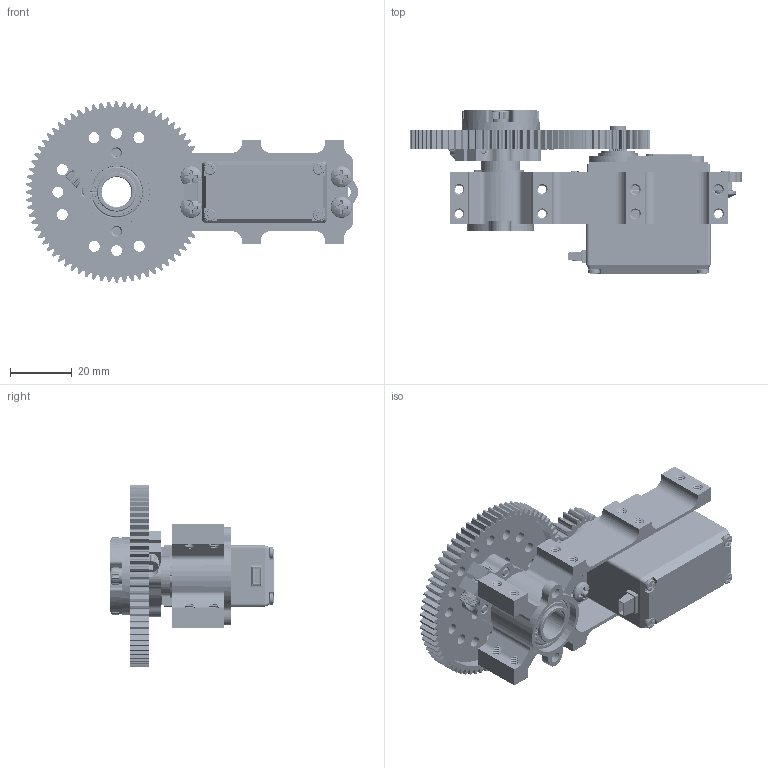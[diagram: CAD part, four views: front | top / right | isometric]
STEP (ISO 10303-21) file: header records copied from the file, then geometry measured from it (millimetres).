
FILE_DESCRIPTION (( 'STEP AP203' ), '1' );
FILE_NAME ('SG12-30-CR.STEP', '2020-06-26T15:15:50', ( '' ), ( '' ), 'SwSTEP 2.0', 'SolidWorks 2016', '' );
FILE_SCHEMA (( 'CONFIG_CONTROL_DESIGN' ));
Length unit declared in the file: millimetre
Products named in the file (9): 545440; 632114_90128A121; 615198_Gear Blank; 545600 assembly; SG12-CR Part; 615306_Gear Blank; SG12-30-CR; 545600; 632110_90128A121
Assembly tree (11 placements, depth 3):
  SG12-30-CR
    SG12-CR Part
    545440
    615306_Gear Blank
    615198_Gear Blank
    545600 assembly
      545600
      632110_90128A121
    632114_90128A121  x4
Bounding box: 107.63 x 53.04 x 58.74 mm (x, y, z)
Volume: 59801.9 mm3; surface area: 39846.7 mm2
Topology: 16 solids, 20 shells, 8166 faces, 21097 edges, 12946 vertices
Faces by surface type: cylinder 3339, bspline 2812, plane 1364, cone 322, torus 281, sphere 48
Entity records: 288003 total; most frequent: CARTESIAN_POINT 167404, ORIENTED_EDGE 29176, DIRECTION 20255, EDGE_CURVE 14588, VERTEX_POINT 9183, AXIS2_PLACEMENT_3D 7676, EDGE_LOOP 5675, ADVANCED_FACE 5475
